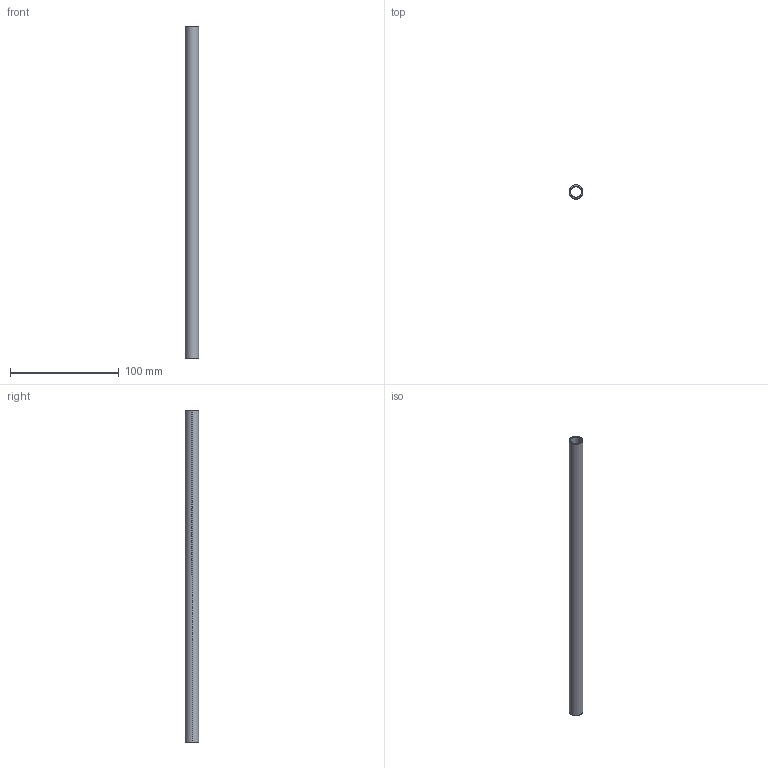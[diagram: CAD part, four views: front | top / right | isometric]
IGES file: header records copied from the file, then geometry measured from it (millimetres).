
Start section: SolidWorks IGES file using analytic representation for surfaces
Global section: file name: C:\Working\.5 Inch Coupling\.5 x .1W Tube.IGS; native system: SolidWorks 2010; preprocessor: SolidWorks 2010; author: mbush2; date: 100812.141636; units: inch
Bounding box: 12.7 x 12.7 x 304.8 mm (x, y, z)
Surface area: 21981 mm2 (no closed solid volume)
Topology: 0 solids, 0 shells, 6 faces, 144 edges, 144 vertices
Faces by surface type: revolution 4, bspline 2
